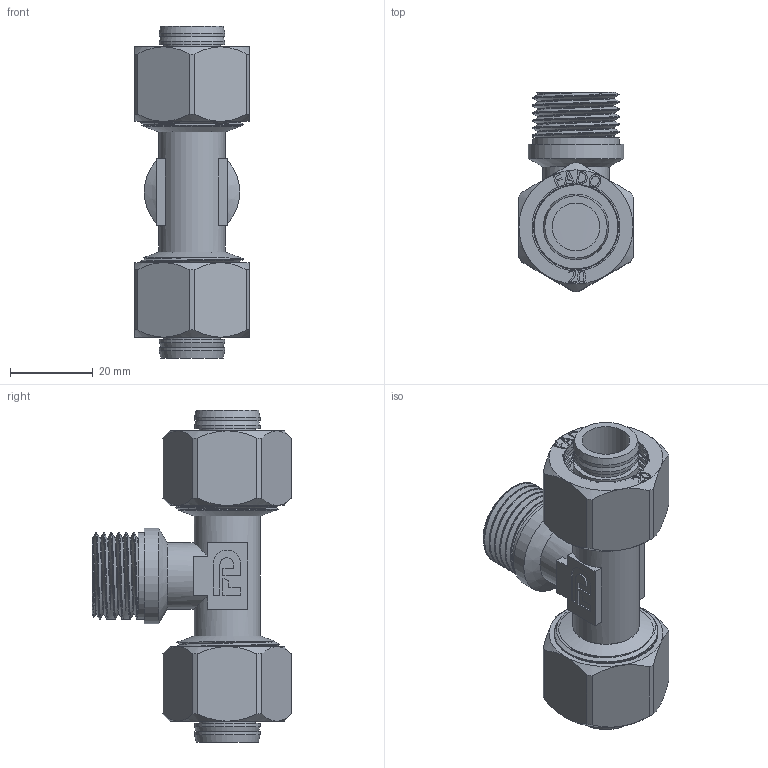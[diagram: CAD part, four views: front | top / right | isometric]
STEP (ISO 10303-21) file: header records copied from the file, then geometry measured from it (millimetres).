
FILE_DESCRIPTION(/* description */ (''),/* implementation_level */ '2;1');
FILE_NAME(/* name */ 'C:\Users\Doom\Desktop\Фадотех\Обжим\RFT25 20x12''''Mx20 18.11.2020\RFT25 20x12''''Mx20 18.11.2020.stp',/* time_stamp */ '2022-06-01T14:26:56+03:00',/* author */ ('Doom'),/* organization */ (''),/* preprocessor_version */ 'ST-DEVELOPER v18',/* originating_system */ 'Autodesk Inventor 2020',/* authorisation */ '');
FILE_SCHEMA (('AUTOMOTIVE_DESIGN { 1 0 10303 214 3 1 1 }'));
Length unit declared in the file: millimetre
Products named in the file (5): RFT25 20x12''Mx20 18.11.2020; RFT22 20x34''Mx20 30.03.2020; FADO MC Nut-20 15.02.2020; FADO MC Socket-20 15.02.2020; Olive 20 15.02.2020
Assembly tree (6 placements, depth 2):
  RFT25 20x12''Mx20 18.11.2020
    FADO MC Nut-20 15.02.2020  x2
    FADO MC Socket-20 15.02.2020  x2
    Olive 20 15.02.2020  x2
  RFT22 20x34''Mx20 30.03.2020
Bounding box: 27.5 x 48 x 80 mm (x, y, z)
Volume: 27608.1 mm3; surface area: 38119 mm2
Topology: 12 solids, 12 shells, 1058 faces, 2892 edges, 1941 vertices
Faces by surface type: bspline 518, plane 309, cylinder 168, cone 57, torus 6
Full cylindrical faces by diameter (mm): 11.5 x2, 12.5 x2, 13.531 x4, 14.5 x2, 15 x1, 15.802 x10, 16 x2, 17.391 x2, 17.5 x2, 18 x2, 18.26 x2, 20.5 x2, 20.95 x8, 22.776 x18, 23 x3, 23.517 x2, 24.1 x2, 25 x22
Entity records: 40522 total; most frequent: CARTESIAN_POINT 26800, ORIENTED_EDGE 3296, DIRECTION 1984, EDGE_CURVE 1648, VERTEX_POINT 1107, EDGE_LOOP 667, AXIS2_PLACEMENT_3D 663, LINE 658
